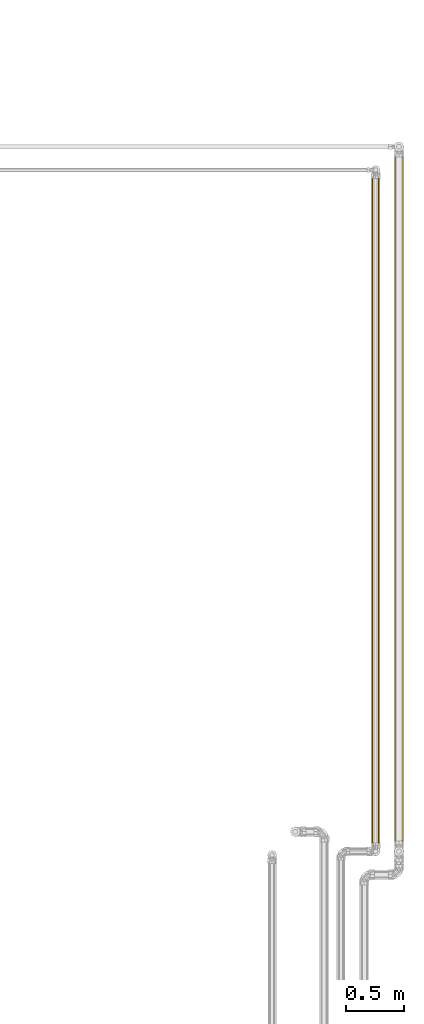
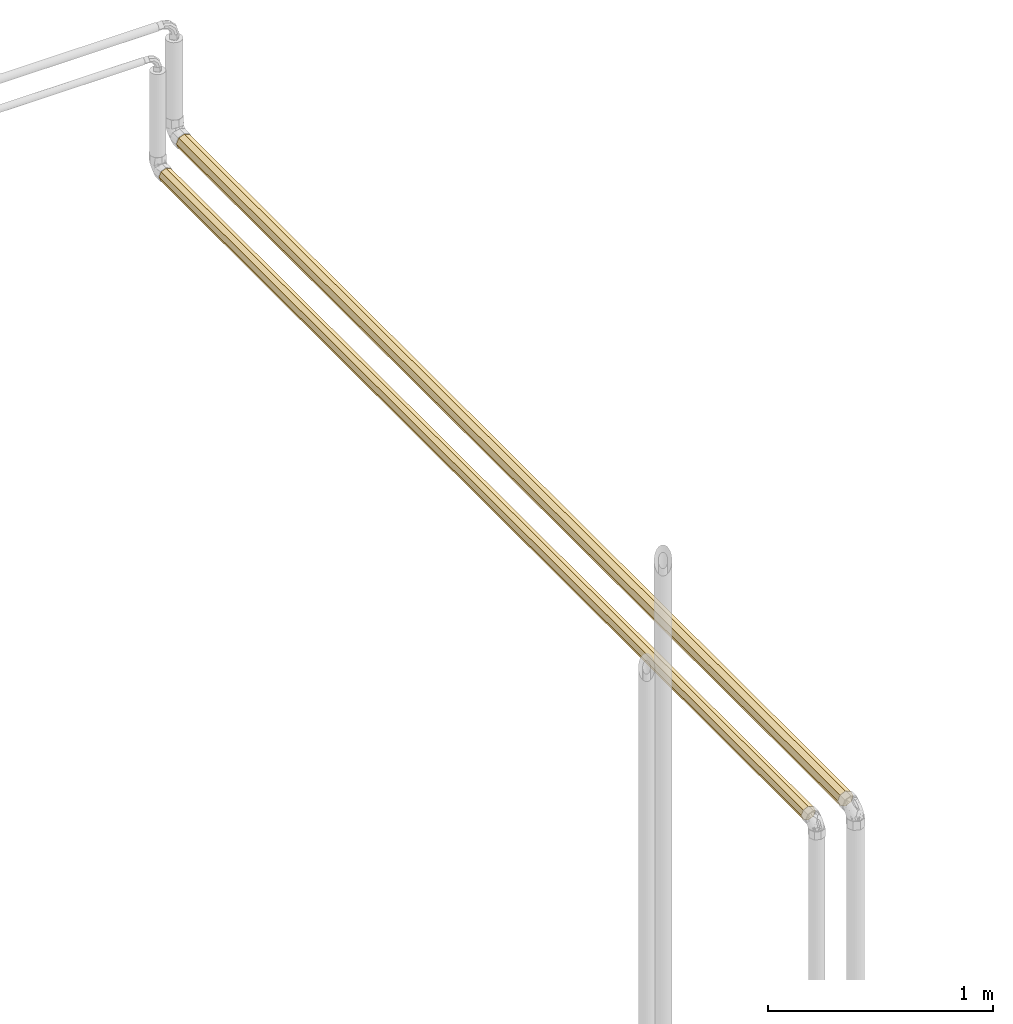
# One storey, part 140 of 652: 2 coverings.
"""IFC2X3 building model written with IfcOpenShell, lengths in millimetres."""

from ifc_helpers import new_model, entity, si_unit, converted_unit, direction, frame, origin, place, context, subcontext, project, spatial, faceted_brep, material, type_object, element, save


model = new_model("IFC2X3")

# Units and contexts
model_context = context("Model", 3, precision=0.01, world=frame((0.0, 0.0, 308426.39999999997)), true_north=direction((6.123233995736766e-17, 1.0)))
plan_context = context("Plan", 3, precision=0.01, world=frame((0.0, 0.0, 308426.39999999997)), true_north=direction((6.123233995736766e-17, 1.0)))
body_context = subcontext(model_context, "Body", "Model", "MODEL_VIEW")
ifc_project = project(units=[si_unit("LENGTHUNIT", "METRE", prefix="MILLI"), si_unit("AREAUNIT", "SQUARE_METRE"), si_unit("VOLUMEUNIT", "CUBIC_METRE"), converted_unit("PLANEANGLEUNIT", "DEGREE", entity("IfcPlaneAngleMeasure", 0.017453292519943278), si_unit("PLANEANGLEUNIT", "RADIAN"), dimensions=[0, 0, 0, 0, 0, 0, 0])], contexts=[model_context, plan_context])

# Site, building, storey
site_placement = place(None, origin())
site = spatial("IfcSite", under=ifc_project, at=site_placement, Name="Default", CompositionType="ELEMENT")
building_placement = place(site_placement, origin())
building = spatial("IfcBuilding", under=site, at=building_placement, CompositionType="ELEMENT")
storey_placement = place(building_placement, frame((0.0, 0.0, 1730.6999999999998)))
storey = spatial("IfcBuildingStorey", under=building, at=storey_placement, Name="EG_Produktion_FFB", CompositionType="ELEMENT", Elevation=1730.6999999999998)

# Coverings
ifc_material = material(Name="Dämmung - Armaflex-Schlauch")
covering_type = type_object("IfcCoveringType", Name="Rohrdämmung außen:Armaflex-Schlauch", PredefinedType="INSULATION")
covering_1_placement = place(storey_placement, frame((79383.99747546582, 78852.98010396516, 4961.904727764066)))
element("IfcCovering", 1, at=covering_1_placement, inside=storey, type_object=covering_type, material=ifc_material, Name="Rohrdämmung außen:Armaflex-Schlauch", ObjectType="Rohrdämmung außen:Armaflex-Schlauch", PredefinedType="INSULATION", context=body_context, shape_type="Brep", body=[
    faceted_brep([(63.9046697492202, 5721.630557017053, 12.28587472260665), (57.45232037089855, 5721.630557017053, 9.613224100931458), (50.99997099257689, 5721.630557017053, 6.940573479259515), (44.86201127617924, 5721.630557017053, 4.3981473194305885), (38.09527223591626, 5721.630557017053, 1.595272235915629), (31.328533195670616, 5721.630557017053, 4.398147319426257), (25.190573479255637, 5721.630557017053, 6.940573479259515), (18.738224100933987, 5721.630557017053, 9.613224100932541), (12.285874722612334, 5721.630557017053, 12.28587472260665), (9.613224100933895, 5721.630557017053, 18.738224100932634), (6.9405734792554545, 5721.630557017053, 25.190573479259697), (4.398147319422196, 5721.630557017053, 31.328533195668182), (1.5952722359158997, 5721.630557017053, 38.09527223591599), (4.398147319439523, 5721.630557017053, 44.862011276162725), (6.9405734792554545, 5721.630557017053, 50.999970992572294), (9.613224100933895, 5721.630557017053, 57.45232037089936), (12.285874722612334, 5721.630557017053, 63.90466974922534), (18.738224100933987, 5721.630557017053, 66.57732037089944), (25.190573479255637, 5721.630557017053, 69.24997099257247), (31.328533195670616, 5721.630557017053, 71.79239715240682), (38.09527223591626, 5721.630557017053, 74.59527223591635), (44.862011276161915, 5721.630557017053, 71.79239715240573), (50.99997099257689, 5721.630557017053, 69.24997099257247), (57.45232037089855, 5721.630557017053, 66.57732037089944), (63.9046697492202, 5721.630557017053, 63.90466974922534), (66.57732037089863, 5721.630557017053, 57.45232037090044), (69.24997099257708, 5721.630557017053, 50.999970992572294), (71.79239715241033, 5721.630557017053, 44.862011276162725), (74.59527223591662, 5721.630557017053, 38.09527223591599), (71.92262161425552, 5721.630557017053, 31.642922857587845), (69.24997099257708, 5721.630557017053, 25.190573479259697), (66.57732037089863, 5721.630557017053, 18.738224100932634), (63.9046697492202, 0.0, 63.90466974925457), (57.45232037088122, 0.0, 66.57732037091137), (50.99997099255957, 0.0, 69.24997099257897), (44.54762161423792, 0.0, 71.92262161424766), (38.09527223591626, 0.0, 74.5952722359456), (31.328533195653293, 0.0, 71.79239715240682), (24.561794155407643, 0.0, 68.98952206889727), (18.423834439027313, 0.0, 66.44709590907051), (12.285874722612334, 0.0, 63.90466974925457), (9.61322410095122, 0.0, 57.45232037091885), (6.94057347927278, 0.0, 50.99997099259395), (4.26792285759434, 0.0, 44.54762161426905), (1.5952722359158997, 0.0, 38.09527223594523), (4.398147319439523, 0.0, 31.328533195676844), (7.201022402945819, 0.0, 24.56179415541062), (9.74344856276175, 0.0, 18.42383443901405), (12.285874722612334, 0.0, 12.285874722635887), (18.73822410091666, 0.0, 9.61322410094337), (25.190573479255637, 0.0, 6.940573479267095), (31.642922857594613, 0.0, 4.267922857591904), (38.09527223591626, 0.0, 1.5952722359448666), (44.8620112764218, 0.0, 4.3981473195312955), (51.62875031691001, 0.0, 7.201022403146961), (57.76671003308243, 0.0, 9.743448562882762), (63.9046697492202, 0.0, 12.285874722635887), (66.57732037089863, 0.0, 18.73822410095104), (69.24997099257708, 0.0, 25.190573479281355), (71.92262161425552, 0.0, 31.642922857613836), (74.59527223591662, 0.0, 38.09527223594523), (71.79239715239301, 0.0, 44.862011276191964), (68.98952206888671, 0.0, 51.62875031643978), (66.44709590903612, 0.0, 57.766710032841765)], [[[0, 1, 2, 3, 4, 5, 6, 7, 8, 9, 10, 11, 12, 13, 14, 15, 16, 17, 18, 19, 20, 21, 22, 23, 24, 25, 26, 27, 28, 29, 30, 31]], [[32, 33, 34, 35, 36, 37, 38, 39, 40, 41, 42, 43, 44, 45, 46, 47, 48, 49, 50, 51, 52, 53, 54, 55, 56, 57, 58, 59, 60, 61, 62, 63]], [[58, 57, 56, 0, 31, 30, 29, 28, 60, 59]], [[0, 56, 55, 54, 53, 52, 4, 3, 2, 1]], [[4, 52, 51, 50, 49, 48, 8, 7, 6, 5]], [[8, 48, 47, 46, 45, 44, 12, 11, 10, 9]], [[12, 44, 43, 42, 41, 40, 16, 15, 14, 13]], [[16, 40, 39, 38, 37, 36, 20, 19, 18, 17]], [[20, 36, 35, 34, 33, 32, 24, 23, 22, 21]], [[24, 32, 63, 62, 61, 60, 28, 27, 26, 25]]]),
])
covering_2_placement = place(storey_placement, frame((79580.49747546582, 78868.45010396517, 4958.404727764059)))
element("IfcCovering", 2, at=covering_2_placement, inside=storey, type_object=covering_type, material=ifc_material, Name="Rohrdämmung außen:Armaflex-Schlauch", ObjectType="Rohrdämmung außen:Armaflex-Schlauch", PredefinedType="INSULATION", context=body_context, shape_type="Brep", body=[
    faceted_brep([(69.87954348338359, 0.0, 69.87954348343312), (62.80847567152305, 0.0, 72.80847567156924), (55.737407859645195, 0.0, 75.73740785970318), (49.135487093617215, 0.0, 78.47201297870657), (41.595272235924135, 0.0, 81.59527223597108), (34.05505737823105, 0.0, 78.47201297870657), (27.45313661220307, 0.0, 75.73740785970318), (20.382068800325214, 0.0, 72.80847567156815), (13.311000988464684, 0.0, 69.87954348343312), (10.382068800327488, 0.0, 62.80847567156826), (7.453136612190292, 0.0, 55.737407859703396), (4.718531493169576, 0.0, 49.135487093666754), (1.5952722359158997, 0.0, 41.59527223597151), (4.524204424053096, 0.0, 34.52420442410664), (7.453136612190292, 0.0, 27.453136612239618), (10.382068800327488, 0.0, 20.382068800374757), (13.311000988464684, 0.0, 13.311000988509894), (20.382068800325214, 0.0, 10.382068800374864), (27.45313661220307, 0.0, 7.453136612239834), (34.055057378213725, 0.0, 4.71853149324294), (41.595272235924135, 0.0, 1.5952722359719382), (49.135487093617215, 0.0, 4.718531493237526), (55.737407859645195, 0.0, 7.453136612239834), (62.80847567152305, 0.0, 10.382068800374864), (69.87954348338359, 0.0, 13.311000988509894), (72.80847567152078, 0.0, 20.382068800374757), (75.73740785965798, 0.0, 27.453136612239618), (78.47201297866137, 0.0, 34.05505737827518), (81.59527223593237, 0.0, 41.59527223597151), (78.47201297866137, 0.0, 49.135487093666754), (75.73740785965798, 0.0, 55.737407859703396), (72.80847567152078, 0.0, 62.80847567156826), (69.87954348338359, 5890.690557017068, 13.311000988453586), (62.808475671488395, 5890.690557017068, 10.382068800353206), (55.737407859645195, 5890.690557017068, 7.453136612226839), (48.666340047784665, 5890.690557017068, 4.524204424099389), (41.595272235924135, 5890.690557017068, 1.595272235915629), (34.05505737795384, 5890.690557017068, 4.718531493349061), (26.514842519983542, 5890.690557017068, 7.841790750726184), (19.912921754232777, 5890.690557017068, 10.576395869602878), (13.311000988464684, 5890.690557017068, 13.311000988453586), (10.38206880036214, 5890.690557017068, 20.382068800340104), (7.453136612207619, 5890.690557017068, 27.45313661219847), (4.524204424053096, 5890.690557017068, 34.52420442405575), (1.5952722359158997, 5890.690557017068, 41.595272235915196), (4.718531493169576, 5890.690557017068, 49.13548709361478), (7.841790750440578, 5890.690557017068, 56.67570195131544), (10.576395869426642, 5890.690557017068, 63.27762271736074), (13.311000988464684, 5890.690557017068, 69.8795434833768), (20.382068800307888, 5890.690557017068, 72.80847567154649), (27.453136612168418, 5890.690557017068, 75.73740785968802), (34.524204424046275, 5890.690557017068, 78.66634004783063), (41.595272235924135, 5890.690557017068, 81.59527223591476), (49.135487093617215, 5890.690557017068, 78.47201297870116), (56.67570195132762, 5890.690557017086, 75.34875372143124), (63.27762271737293, 5890.690557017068, 72.61414860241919), (69.87954348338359, 5890.690557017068, 69.8795434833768), (72.8084756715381, 5890.690557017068, 62.80847567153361), (75.7374078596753, 5890.690557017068, 55.73740785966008), (78.66634004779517, 5890.690557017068, 48.66634004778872), (81.59527223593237, 5890.690557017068, 41.595272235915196), (78.47201297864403, 5890.690557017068, 34.055057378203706), (75.3487537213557, 5890.690557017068, 26.5148425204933), (72.61414860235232, 5890.690557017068, 19.91292175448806)], [[[0, 1, 2, 3, 4, 5, 6, 7, 8, 9, 10, 11, 12, 13, 14, 15, 16, 17, 18, 19, 20, 21, 22, 23, 24, 25, 26, 27, 28, 29, 30, 31]], [[32, 33, 34, 35, 36, 37, 38, 39, 40, 41, 42, 43, 44, 45, 46, 47, 48, 49, 50, 51, 52, 53, 54, 55, 56, 57, 58, 59, 60, 61, 62, 63]], [[42, 41, 40, 16, 15, 14, 13, 12, 44, 43]], [[16, 40, 39, 38, 37, 36, 20, 19, 18, 17]], [[20, 36, 35, 34, 33, 32, 24, 23, 22, 21]], [[24, 32, 63, 62, 61, 60, 28, 27, 26, 25]], [[28, 60, 59, 58, 57, 56, 0, 31, 30, 29]], [[0, 56, 55, 54, 53, 52, 4, 3, 2, 1]], [[4, 52, 51, 50, 49, 48, 8, 7, 6, 5]], [[8, 48, 47, 46, 45, 44, 12, 11, 10, 9]]]),
])

save(model, "model.ifc")
